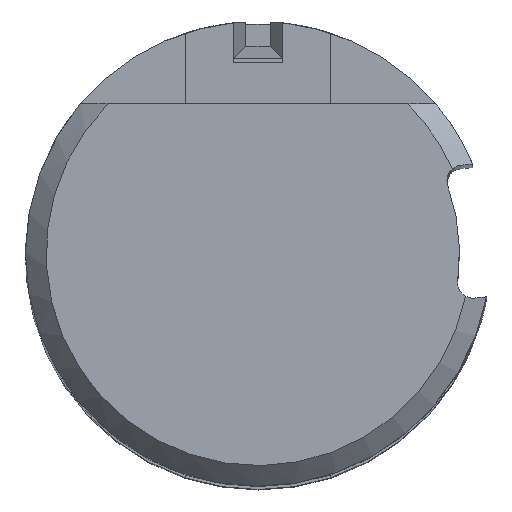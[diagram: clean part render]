
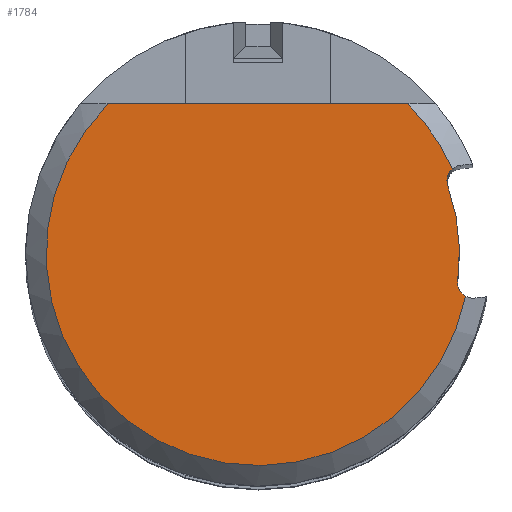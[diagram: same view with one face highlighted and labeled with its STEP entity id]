
A CAD part, top view. The second image highlights one B-rep face of the part: STEP entity #1784.
In plain terms, the highlighted planar face has unit normal (0, 0, 1).
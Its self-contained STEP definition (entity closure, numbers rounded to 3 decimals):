
#982 = VERTEX_POINT('',#983);
#983 = CARTESIAN_POINT('',(-7.247,7.249,10.));
#990 = EDGE_CURVE('',#991,#982,#993,.T.);
#991 = VERTEX_POINT('',#992);
#992 = CARTESIAN_POINT('',(7.247,7.249,10.));
#993 = LINE('',#994,#995);
#994 = CARTESIAN_POINT('',(121.143,7.249,10.));
#995 = VECTOR('',#996,1.);
#996 = DIRECTION('',(-1.,0.,0.));
#1040 = EDGE_CURVE('',#1041,#982,#1043,.T.);
#1041 = VERTEX_POINT('',#1042);
#1042 = CARTESIAN_POINT('',(10.042,-2.055,10.));
#1043 = CIRCLE('',#1044,10.25);
#1044 = AXIS2_PLACEMENT_3D('',#1045,#1046,#1047);
#1045 = CARTESIAN_POINT('',(0.,0.,10.)
  );
#1046 = DIRECTION('',(0.,0.,-1.));
#1047 = DIRECTION('',(0.,1.,0.));
#1701 = VERTEX_POINT('',#1702);
#1702 = CARTESIAN_POINT('',(9.395,4.098,10.));
#1715 = EDGE_CURVE('',#991,#1701,#1716,.T.);
#1716 = CIRCLE('',#1717,10.25);
#1717 = AXIS2_PLACEMENT_3D('',#1718,#1719,#1720);
#1718 = CARTESIAN_POINT('',(0.,0.,10.)
  );
#1719 = DIRECTION('',(0.,0.,-1.));
#1720 = DIRECTION('',(0.,1.,0.));
#1784 = ADVANCED_FACE('',(#1785),#1815,.T.);
#1785 = FACE_BOUND('',#1786,.F.);
#1786 = EDGE_LOOP('',(#1787,#1788,#1789,#1798,#1807,#1814));
#1787 = ORIENTED_EDGE('',*,*,#990,.F.);
#1788 = ORIENTED_EDGE('',*,*,#1715,.T.);
#1789 = ORIENTED_EDGE('',*,*,#1790,.T.);
#1790 = EDGE_CURVE('',#1701,#1791,#1793,.T.);
#1791 = VERTEX_POINT('',#1792);
#1792 = CARTESIAN_POINT('',(9.182,3.28,10.));
#1793 = CIRCLE('',#1794,0.75);
#1794 = AXIS2_PLACEMENT_3D('',#1795,#1796,#1797);
#1795 = CARTESIAN_POINT('',(9.888,3.532,10.));
#1796 = DIRECTION('',(0.,0.,1.));
#1797 = DIRECTION('',(1.,0.,0.));
#1798 = ORIENTED_EDGE('',*,*,#1799,.F.);
#1799 = EDGE_CURVE('',#1800,#1791,#1802,.T.);
#1800 = VERTEX_POINT('',#1801);
#1801 = CARTESIAN_POINT('',(9.663,-1.299,10.));
#1802 = CIRCLE('',#1803,9.75);
#1803 = AXIS2_PLACEMENT_3D('',#1804,#1805,#1806);
#1804 = CARTESIAN_POINT('',(0.,0.,10.)
  );
#1805 = DIRECTION('',(0.,0.,1.));
#1806 = DIRECTION('',(1.,0.,0.));
#1807 = ORIENTED_EDGE('',*,*,#1808,.T.);
#1808 = EDGE_CURVE('',#1800,#1041,#1809,.T.);
#1809 = CIRCLE('',#1810,0.75);
#1810 = AXIS2_PLACEMENT_3D('',#1811,#1812,#1813);
#1811 = CARTESIAN_POINT('',(10.406,-1.399,10.));
#1812 = DIRECTION('',(0.,0.,1.));
#1813 = DIRECTION('',(1.,0.,0.));
#1814 = ORIENTED_EDGE('',*,*,#1040,.T.);
#1815 = PLANE('',#1816);
#1816 = AXIS2_PLACEMENT_3D('',#1817,#1818,#1819);
#1817 = CARTESIAN_POINT('',(0.,0.,10.)
  );
#1818 = DIRECTION('',(0.,0.,1.));
#1819 = DIRECTION('',(0.,-1.,0.));
